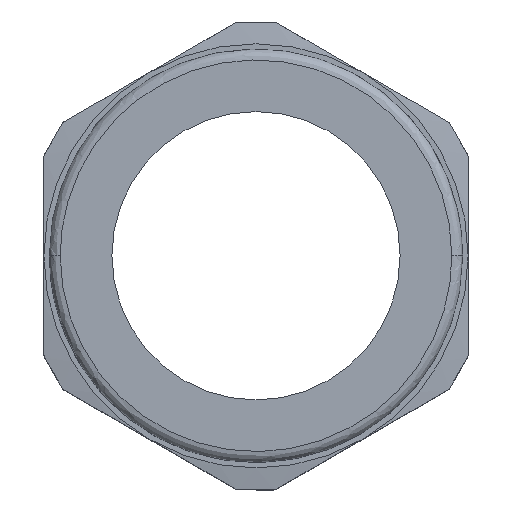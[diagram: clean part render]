
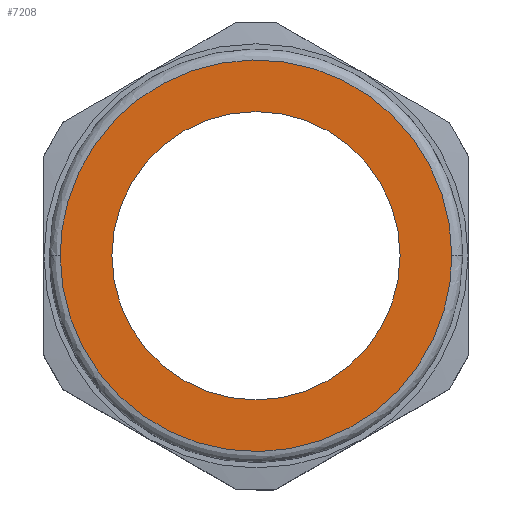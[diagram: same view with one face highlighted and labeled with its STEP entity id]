
A CAD part, top view. The second image highlights one B-rep face of the part: STEP entity #7208.
In plain terms, the highlighted planar face has unit normal (0, 0, 1).
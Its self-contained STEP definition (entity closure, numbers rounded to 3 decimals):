
#49 = CARTESIAN_POINT ( 'NONE',  ( -15.96, 32.355, 18.5 ) ) ;
#87 = EDGE_CURVE ( 'NONE', #8690, #357, #5642, .T. ) ;
#289 = CARTESIAN_POINT ( 'NONE',  ( -27.127, -23.785, 18.5 ) ) ;
#290 = CARTESIAN_POINT ( 'NONE',  ( 18.035, 31.246, 18.5 ) ) ;
#357 = VERTEX_POINT ( 'NONE', #4770 ) ;
#612 = VERTEX_POINT ( 'NONE', #10195 ) ;
#976 = ORIENTED_EDGE ( 'NONE', *, *, #14743, .T. ) ;
#1298 = CARTESIAN_POINT ( 'NONE',  ( 15.96, 32.355, 18.5 ) ) ;
#1372 = CARTESIAN_POINT ( 'NONE',  ( -18.035, 31.246, 18.5 ) ) ;
#1450 = CARTESIAN_POINT ( 'NONE',  ( 15.96, -32.355, 18.5 ) ) ;
#1635 = B_SPLINE_CURVE_WITH_KNOTS ( 'NONE', 3,
 ( #4858, #4936, #8581, #6192, #10704, #9688, #10943, #3763, #289, #4777, #8510, #5014, #9534, #13284, #3604, #14611, #3911, #7193, #2599, #8659, #12128, #1450, #13437, #8433, #9766, #14533, #2680, #14293, #8356, #13132, #11967, #9611, #14380, #3688 ),
 .UNSPECIFIED., .F., .F.,
 ( 4, 2, 2, 2, 2, 2, 2, 2, 2, 2, 2, 2, 2, 2, 2, 2, 4 ),
 ( 0., 0.031, 0.062, 0.094, 0.125, 0.156, 0.187, 0.219, 0.25, 0.281, 0.312, 0.344, 0.375, 0.406, 0.437, 0.469, 0.5 ),
 .UNSPECIFIED. ) ;
#2070 = CARTESIAN_POINT ( 'NONE',  ( 34.164, 11.593, 18.5 ) ) ;
#2525 = CARTESIAN_POINT ( 'NONE',  ( 27.127, 23.785, 18.5 ) ) ;
#2599 = CARTESIAN_POINT ( 'NONE',  ( 4.705, -35.769, 18.5 ) ) ;
#2600 = CARTESIAN_POINT ( 'NONE',  ( 21.966, 28.62, 18.5 ) ) ;
#2680 = CARTESIAN_POINT ( 'NONE',  ( 28.62, -21.966, 18.5 ) ) ;
#3357 = AXIS2_PLACEMENT_3D ( 'NONE', #6890, #11973, #10401 ) ;
#3458 = PLANE ( 'NONE',  #3357 ) ;
#3604 = CARTESIAN_POINT ( 'NONE',  ( -9.341, -34.847, 18.5 ) ) ;
#3688 = CARTESIAN_POINT ( 'NONE',  ( 36., 0., 18.5 ) ) ;
#3763 = CARTESIAN_POINT ( 'NONE',  ( -28.62, -21.966, 18.5 ) ) ;
#3764 = CARTESIAN_POINT ( 'NONE',  ( -11.593, 34.164, 18.5 ) ) ;
#3911 = CARTESIAN_POINT ( 'NONE',  ( -2.363, -36., 18.5 ) ) ;
#4397 = CARTESIAN_POINT ( 'NONE',  ( -36., 0., 18.5 ) ) ;
#4698 = EDGE_LOOP ( 'NONE', ( #13944, #10879 ) ) ;
#4704 = CARTESIAN_POINT ( 'NONE',  ( 31.246, 18.035, 18.5 ) ) ;
#4770 = CARTESIAN_POINT ( 'NONE',  ( -26.5, 0., 18.5 ) ) ;
#4777 = CARTESIAN_POINT ( 'NONE',  ( -23.785, -27.127, 18.5 ) ) ;
#4778 = CARTESIAN_POINT ( 'NONE',  ( -23.785, 27.127, 18.5 ) ) ;
#4858 = CARTESIAN_POINT ( 'NONE',  ( -36., 0., 18.5 ) ) ;
#4936 = CARTESIAN_POINT ( 'NONE',  ( -36., -2.364, 18.5 ) ) ;
#5014 = CARTESIAN_POINT ( 'NONE',  ( -18.035, -31.246, 18.5 ) ) ;
#5015 = CARTESIAN_POINT ( 'NONE',  ( -2.363, 36., 18.5 ) ) ;
#5421 = CARTESIAN_POINT ( 'NONE',  ( 0., 0., 18.5 ) ) ;
#5615 = B_SPLINE_CURVE_WITH_KNOTS ( 'NONE', 3,
 ( #13908, #11734, #7969, #12751, #2070, #6805, #4704, #10706, #2525, #10629, #2600, #290, #1298, #10867, #11888, #7116, #9767, #5015, #6036, #13364, #3764, #49, #1372, #9452, #4778, #11969, #7345, #14224, #10786, #9535, #13285, #6108, #8511, #14381 ),
 .UNSPECIFIED., .F., .F.,
 ( 4, 2, 2, 2, 2, 2, 2, 2, 2, 2, 2, 2, 2, 2, 2, 2, 4 ),
 ( 0.5, 0.531, 0.562, 0.594, 0.625, 0.656, 0.687, 0.719, 0.75, 0.781, 0.812, 0.844, 0.875, 0.906, 0.938, 0.969, 1. ),
 .UNSPECIFIED. ) ;
#5642 = CIRCLE ( 'NONE', #11364, 26.5 ) ;
#6036 = CARTESIAN_POINT ( 'NONE',  ( -4.705, 35.769, 18.5 ) ) ;
#6108 = CARTESIAN_POINT ( 'NONE',  ( -35.769, 4.705, 18.5 ) ) ;
#6192 = CARTESIAN_POINT ( 'NONE',  ( -34.847, -9.341, 18.5 ) ) ;
#6349 = EDGE_CURVE ( 'NONE', #12121, #612, #1635, .T. ) ;
#6805 = CARTESIAN_POINT ( 'NONE',  ( 32.355, 15.96, 18.5 ) ) ;
#6890 = CARTESIAN_POINT ( 'NONE',  ( 0., 38., 18.5 ) ) ;
#7116 = CARTESIAN_POINT ( 'NONE',  ( 4.705, 35.769, 18.5 ) ) ;
#7193 = CARTESIAN_POINT ( 'NONE',  ( 2.363, -36., 18.5 ) ) ;
#7208 = ADVANCED_FACE ( 'NONE', ( #10709, #13060 ), #3458, .T. ) ;
#7345 = CARTESIAN_POINT ( 'NONE',  ( -28.62, 21.966, 18.5 ) ) ;
#7881 = DIRECTION ( 'NONE',  ( 0., 0., -1. ) ) ;
#7969 = CARTESIAN_POINT ( 'NONE',  ( 35.769, 4.705, 18.5 ) ) ;
#8337 = CIRCLE ( 'NONE', #14331, 26.5 ) ;
#8356 = CARTESIAN_POINT ( 'NONE',  ( 32.355, -15.96, 18.5 ) ) ;
#8433 = CARTESIAN_POINT ( 'NONE',  ( 21.966, -28.62, 18.5 ) ) ;
#8510 = CARTESIAN_POINT ( 'NONE',  ( -21.966, -28.62, 18.5 ) ) ;
#8511 = CARTESIAN_POINT ( 'NONE',  ( -36., 2.364, 18.5 ) ) ;
#8581 = CARTESIAN_POINT ( 'NONE',  ( -35.769, -4.705, 18.5 ) ) ;
#8659 = CARTESIAN_POINT ( 'NONE',  ( 9.341, -34.847, 18.5 ) ) ;
#8690 = VERTEX_POINT ( 'NONE', #10194 ) ;
#8723 = ORIENTED_EDGE ( 'NONE', *, *, #6349, .T. ) ;
#9452 = CARTESIAN_POINT ( 'NONE',  ( -21.966, 28.62, 18.5 ) ) ;
#9534 = CARTESIAN_POINT ( 'NONE',  ( -15.96, -32.355, 18.5 ) ) ;
#9535 = CARTESIAN_POINT ( 'NONE',  ( -34.164, 11.593, 18.5 ) ) ;
#9611 = CARTESIAN_POINT ( 'NONE',  ( 35.769, -4.705, 18.5 ) ) ;
#9688 = CARTESIAN_POINT ( 'NONE',  ( -32.355, -15.96, 18.5 ) ) ;
#9766 = CARTESIAN_POINT ( 'NONE',  ( 23.785, -27.127, 18.5 ) ) ;
#9767 = CARTESIAN_POINT ( 'NONE',  ( 2.363, 36., 18.5 ) ) ;
#10194 = CARTESIAN_POINT ( 'NONE',  ( 26.5, 0., 18.5 ) ) ;
#10195 = CARTESIAN_POINT ( 'NONE',  ( 36., 0., 18.5 ) ) ;
#10381 = DIRECTION ( 'NONE',  ( 0., 0., -1. ) ) ;
#10401 = DIRECTION ( 'NONE',  ( 1., 0., 0. ) ) ;
#10629 = CARTESIAN_POINT ( 'NONE',  ( 23.785, 27.127, 18.5 ) ) ;
#10704 = CARTESIAN_POINT ( 'NONE',  ( -34.164, -11.593, 18.5 ) ) ;
#10706 = CARTESIAN_POINT ( 'NONE',  ( 28.62, 21.966, 18.5 ) ) ;
#10709 = FACE_OUTER_BOUND ( 'NONE', #14138, .T. ) ;
#10786 = CARTESIAN_POINT ( 'NONE',  ( -32.355, 15.96, 18.5 ) ) ;
#10867 = CARTESIAN_POINT ( 'NONE',  ( 11.593, 34.164, 18.5 ) ) ;
#10879 = ORIENTED_EDGE ( 'NONE', *, *, #87, .T. ) ;
#10943 = CARTESIAN_POINT ( 'NONE',  ( -31.246, -18.035, 18.5 ) ) ;
#11364 = AXIS2_PLACEMENT_3D ( 'NONE', #5421, #7881, #14777 ) ;
#11403 = DIRECTION ( 'NONE',  ( -1., 0., 0. ) ) ;
#11734 = CARTESIAN_POINT ( 'NONE',  ( 36., 2.363, 18.5 ) ) ;
#11888 = CARTESIAN_POINT ( 'NONE',  ( 9.341, 34.847, 18.5 ) ) ;
#11967 = CARTESIAN_POINT ( 'NONE',  ( 34.847, -9.341, 18.5 ) ) ;
#11969 = CARTESIAN_POINT ( 'NONE',  ( -27.127, 23.785, 18.5 ) ) ;
#11973 = DIRECTION ( 'NONE',  ( 0., 0., 1. ) ) ;
#12121 = VERTEX_POINT ( 'NONE', #4397 ) ;
#12128 = CARTESIAN_POINT ( 'NONE',  ( 11.593, -34.164, 18.5 ) ) ;
#12733 = CARTESIAN_POINT ( 'NONE',  ( 0., 0., 18.5 ) ) ;
#12751 = CARTESIAN_POINT ( 'NONE',  ( 34.847, 9.341, 18.5 ) ) ;
#12861 = EDGE_CURVE ( 'NONE', #357, #8690, #8337, .T. ) ;
#13060 = FACE_BOUND ( 'NONE', #4698, .T. ) ;
#13132 = CARTESIAN_POINT ( 'NONE',  ( 34.164, -11.593, 18.5 ) ) ;
#13284 = CARTESIAN_POINT ( 'NONE',  ( -11.593, -34.164, 18.5 ) ) ;
#13285 = CARTESIAN_POINT ( 'NONE',  ( -34.847, 9.341, 18.5 ) ) ;
#13364 = CARTESIAN_POINT ( 'NONE',  ( -9.341, 34.847, 18.5 ) ) ;
#13437 = CARTESIAN_POINT ( 'NONE',  ( 18.035, -31.246, 18.5 ) ) ;
#13908 = CARTESIAN_POINT ( 'NONE',  ( 36., 0., 18.5 ) ) ;
#13944 = ORIENTED_EDGE ( 'NONE', *, *, #12861, .T. ) ;
#14138 = EDGE_LOOP ( 'NONE', ( #8723, #976 ) ) ;
#14224 = CARTESIAN_POINT ( 'NONE',  ( -31.246, 18.035, 18.5 ) ) ;
#14293 = CARTESIAN_POINT ( 'NONE',  ( 31.246, -18.035, 18.5 ) ) ;
#14331 = AXIS2_PLACEMENT_3D ( 'NONE', #12733, #10381, #11403 ) ;
#14380 = CARTESIAN_POINT ( 'NONE',  ( 36., -2.363, 18.5 ) ) ;
#14381 = CARTESIAN_POINT ( 'NONE',  ( -36., 0., 18.5 ) ) ;
#14533 = CARTESIAN_POINT ( 'NONE',  ( 27.127, -23.785, 18.5 ) ) ;
#14611 = CARTESIAN_POINT ( 'NONE',  ( -4.705, -35.769, 18.5 ) ) ;
#14743 = EDGE_CURVE ( 'NONE', #612, #12121, #5615, .T. ) ;
#14777 = DIRECTION ( 'NONE',  ( -1., 0., 0. ) ) ;
